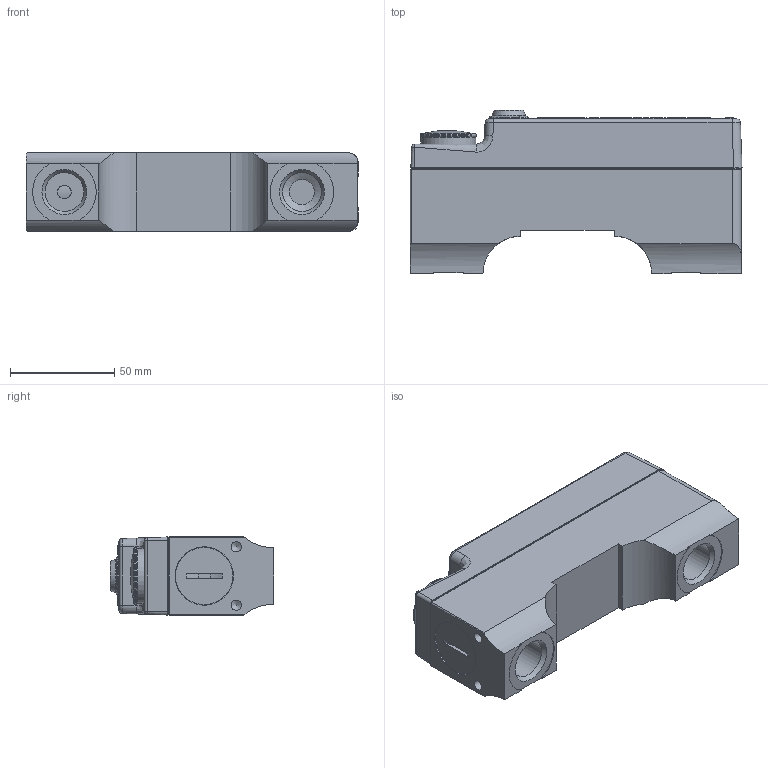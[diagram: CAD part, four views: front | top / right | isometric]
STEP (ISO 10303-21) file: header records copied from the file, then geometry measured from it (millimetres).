
FILE_DESCRIPTION(/* description */ (''),/* implementation_level */ '2;1');
FILE_NAME(/* name */ 'C:\Users\M-Huiskes\Desktop\MV-1x8.stp',/* time_stamp */ '2017-01-18T10:05:32+01:00',/* author */ ('M-Huiskes'),/* organization */ (''),/* preprocessor_version */ 'ST-DEVELOPER v16.5',/* originating_system */ 'Autodesk Inventor 2017',/* authorisation */ '');
FILE_SCHEMA (('AUTOMOTIVE_DESIGN { 1 0 10303 214 3 1 1 }'));
Length unit declared in the file: millimetre
Products named in the file (1): Part5
Bounding box: 159.29 x 78.5 x 37.5 mm (x, y, z)
Volume: 348315 mm3; surface area: 41436.6 mm2
Topology: 1 solids, 3 shells, 629 faces, 1655 edges, 1092 vertices
Faces by surface type: plane 404, bspline 153, cylinder 52, cone 15, torus 3, sphere 2
Full cylindrical faces by diameter (mm): 4.917 x2, 6.5 x1, 12 x1, 16 x1, 18.631 x2, 26.5 x1, 27.2 x1, 27.5 x1, 28 x1
Entity records: 20252 total; most frequent: CARTESIAN_POINT 5450, ORIENTED_EDGE 3252, DIRECTION 2431, EDGE_CURVE 1626, LINE 1191, VECTOR 1191, VERTEX_POINT 1087, EDGE_LOOP 713
